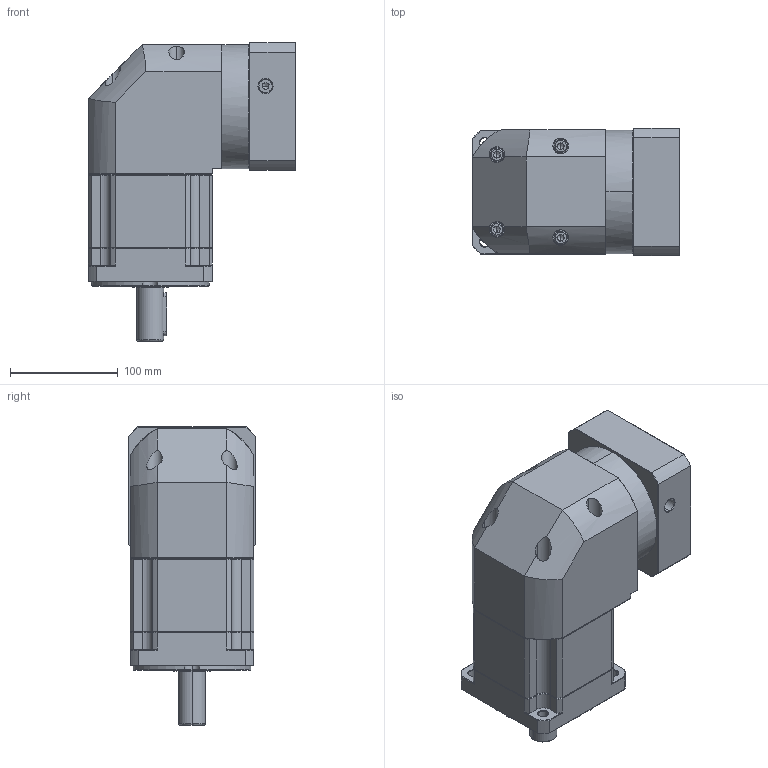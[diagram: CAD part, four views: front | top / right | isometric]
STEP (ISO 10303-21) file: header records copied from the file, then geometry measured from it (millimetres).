
FILE_DESCRIPTION (( 'STEP AP214' ), '1' );
FILE_NAME ('ZBR115A-D25-L2-P2-19-95-130-M8.step', '2023-08-26T12:32:32', ( '' ), ( '' ), 'SwSTEP 2.0', 'SolidWorks 2016', '' );
FILE_SCHEMA (( 'AUTOMOTIVE_DESIGN' ));
Length unit declared in the file: millimetre
Products named in the file (1): ZBR115A-D25-L2-P2-19-95-130-M8
Bounding box: 192.4 x 118 x 276.5 mm (x, y, z)
Volume: 3291079.2 mm3; surface area: 258504.5 mm2
Topology: 6 solids, 6 shells, 2378 faces, 6238 edges, 3964 vertices
Faces by surface type: plane 1139, cylinder 439, bspline 424, cone 368, torus 8
Entity records: 127991 total; most frequent: CARTESIAN_POINT 46859, ORIENTED_EDGE 12416, DIRECTION 9789, EDGE_CURVE 6208, LINE 3989, VECTOR 3989, VERTEX_POINT 3964, AXIS2_PLACEMENT_3D 2900
